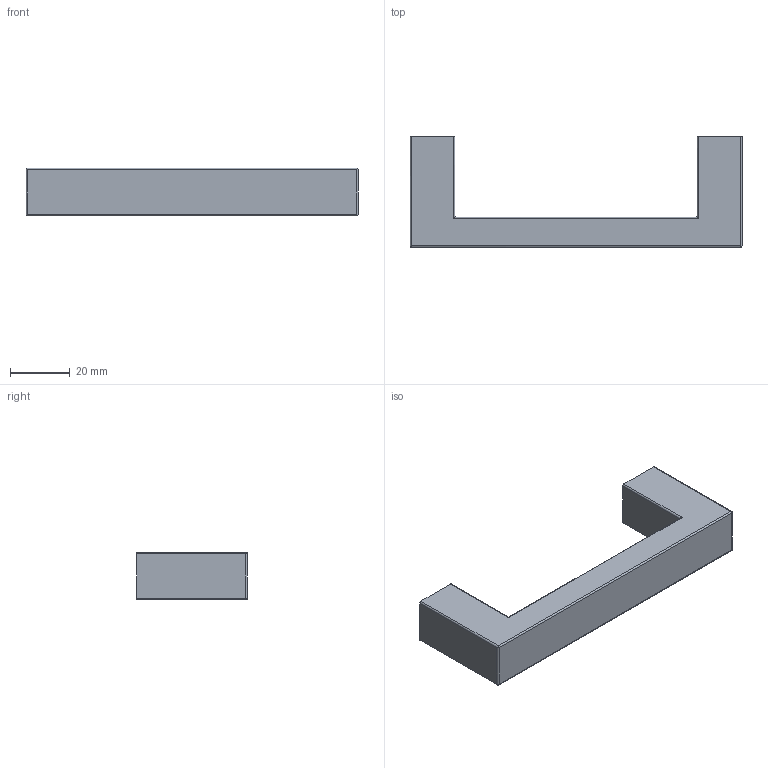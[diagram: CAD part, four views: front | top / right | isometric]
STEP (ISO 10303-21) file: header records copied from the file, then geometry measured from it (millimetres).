
FILE_DESCRIPTION( ( '' ), '1' );
FILE_NAME( 'C:/Documents and Settings/Sachin/Desktop/Sheet 10_1/stp/9113247.stp', '2013-10-22T07:01:41', ( '' ), ( '' ), ' ', ' ', ' ' );
FILE_SCHEMA( ( 'CONFIG_CONTROL_DESIGN' ) );
Length unit declared in the file: millimetre
Products named in the file (1): 1
Bounding box: 111 x 37 x 16 mm (x, y, z)
Volume: 30484.6 mm3; surface area: 9490.4 mm2
Topology: 1 solids, 1 shells, 36 faces, 88 edges, 56 vertices
Faces by surface type: cylinder 20, plane 16
Entity records: 1108 total; most frequent: DIRECTION 198, CARTESIAN_POINT 181, ORIENTED_EDGE 176, EDGE_CURVE 88, AXIS2_PLACEMENT_3D 73, VERTEX_POINT 56, LINE 52, VECTOR 52
